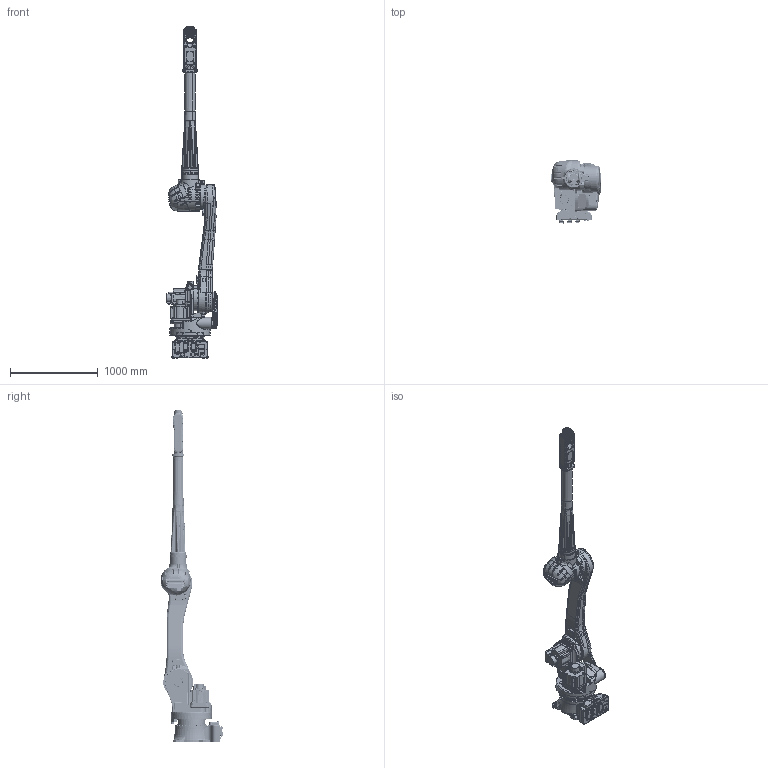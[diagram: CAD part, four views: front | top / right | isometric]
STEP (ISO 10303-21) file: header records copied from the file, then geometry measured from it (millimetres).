
FILE_DESCRIPTION(('CATIA V5 STEP Exchange','CAx-IF Rec.Pracs.--- Composite Materials ---3.4---2017-06-13'),'2;1');
FILE_NAME('\\10.240.18.134\業務_共有\PS\動作確認\2021\#55554_STEP_RS\RS015X-B001.stp','2021-12-15T05:18:12+00:00',('none'),('none'),'CATIA Version 5-6 Release 2020 SP4 HF11','CATIA V5 STEP AP203 v2','none');
FILE_SCHEMA(('CONFIG_CONTROL_DESIGN'));
Products named in the file (1): RS015X-B001
Assembly tree (7 placements, depth 2):
  RS015X-B001
    #57
    #36016
    #97839
    #127204
    #174782
    #239433
    #253159
Bounding box: 571 x 713.76 x 3775 mm (x, y, z)
Volume: 202810685.4 mm3; surface area: 5863650.7 mm2
Topology: 10 solids, 10 shells, 5859 faces, 14537 edges, 9017 vertices
Faces by surface type: cylinder 2226, plane 1833, bspline 1068, torus 367, cone 260, sphere 51, extrusion 39, revolution 15
Entity records: 256843 total; most frequent: CARTESIAN_POINT 138643, ORIENTED_EDGE 28526, DIRECTION 15971, EDGE_CURVE 14263, VERTEX_POINT 9017, AXIS2_PLACEMENT_3D 7576, EDGE_LOOP 6502, ADVANCED_FACE 5859
